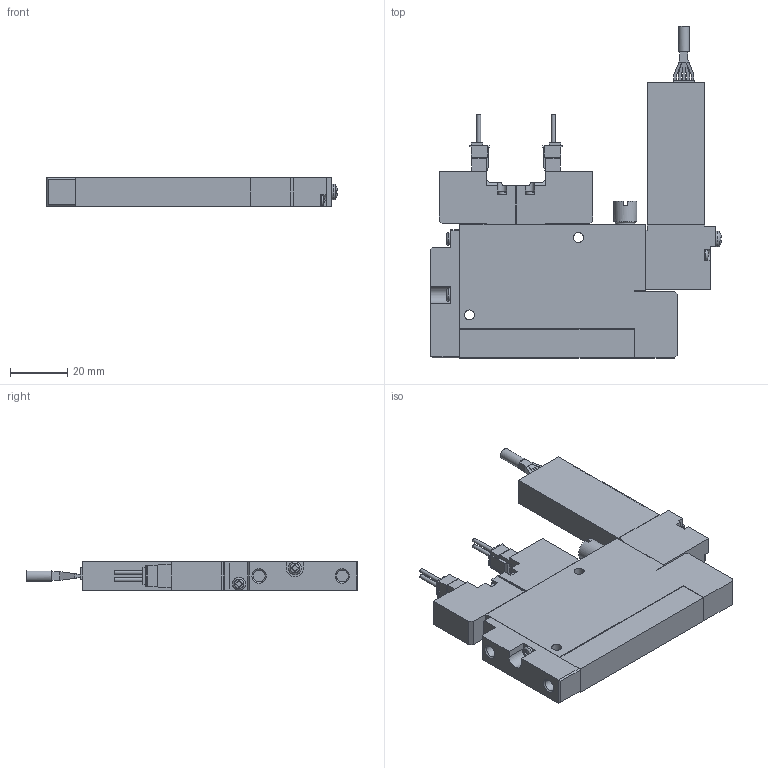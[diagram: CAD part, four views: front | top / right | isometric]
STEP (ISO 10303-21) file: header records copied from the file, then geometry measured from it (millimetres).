
FILE_DESCRIPTION(('STEP AP203'),'1');
FILE_NAME('5SC_3D.stp','2024-09-04T23:20:29',(' '),(' '),'Spatial InterOp 3D',' ',' ');
FILE_SCHEMA(('CONFIG_CONTROL_DESIGN'));
Length unit declared in the file: millimetre
Products named in the file (5): BSC1SXV9※5SC; Solenoid valve S; Pressure Sensor V9; Unit-C; BaseSC10R
Assembly tree (4 placements, depth 2):
  BSC1SXV9※5SC
    Solenoid valve S
    Pressure Sensor V9
    Unit-C
    BaseSC10R
Bounding box: 101.35 x 115.8 x 10 mm (x, y, z)
Volume: 61211.1 mm3; surface area: 21381.7 mm2
Topology: 4 solids, 4 shells, 429 faces, 1158 edges, 762 vertices
Faces by surface type: plane 342, cylinder 72, sphere 5, torus 5, cone 5
Full cylindrical faces by diameter (mm): 1.4 x4, 3 x4, 3.5 x8, 3.8 x1, 4.134 x4, 4.5 x2, 5.5 x2, 7 x1, 8 x1
Entity records: 13482 total; most frequent: CARTESIAN_POINT 2556, ORIENTED_EDGE 2200, DIRECTION 2142, EDGE_CURVE 1100, LINE 886, VECTOR 886, VERTEX_POINT 746, AXIS2_PLACEMENT_3D 628
